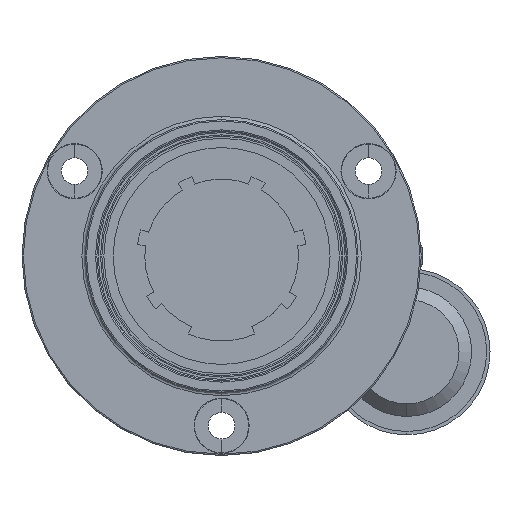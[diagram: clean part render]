
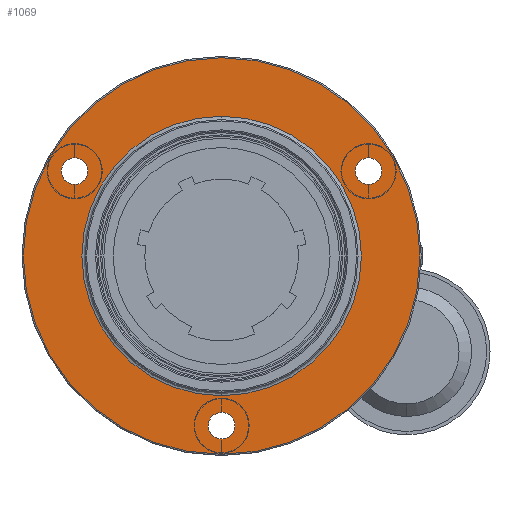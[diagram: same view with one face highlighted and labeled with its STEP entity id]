
A CAD part, front view. The second image highlights one B-rep face of the part: STEP entity #1069.
In plain terms, the highlighted planar face has unit normal (0, -1, 0).
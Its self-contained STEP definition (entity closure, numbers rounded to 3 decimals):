
#50 = CARTESIAN_POINT ( 'NONE',  ( 0., 0., 0. ) ) ;
#107 = DIRECTION ( 'NONE',  ( 0., 1., 0. ) ) ;
#149 = EDGE_CURVE ( 'NONE', #2538, #3407, #5561, .T. ) ;
#292 = FACE_BOUND ( 'NONE', #5422, .T. ) ;
#376 = DIRECTION ( 'NONE',  ( 0., 0., 1. ) ) ;
#440 = DIRECTION ( 'NONE',  ( 0., 0., 1. ) ) ;
#527 = DIRECTION ( 'NONE',  ( 0., 0., 1. ) ) ;
#692 = DIRECTION ( 'NONE',  ( 0., 1., 0. ) ) ;
#939 = CIRCLE ( 'NONE', #4312, 2. ) ;
#1017 = CARTESIAN_POINT ( 'NONE',  ( 0., 0., -25.5 ) ) ;
#1069 = ADVANCED_FACE ( 'NONE', ( #5551, #1592, #2889, #1890, #292 ), #2959, .F. ) ;
#1113 = CARTESIAN_POINT ( 'NONE',  ( 0., 0., 21. ) ) ;
#1148 = EDGE_LOOP ( 'NONE', ( #4592, #4015 ) ) ;
#1329 = CARTESIAN_POINT ( 'NONE',  ( -22.084, 0., 12.75 ) ) ;
#1347 = AXIS2_PLACEMENT_3D ( 'NONE', #6361, #3393, #440 ) ;
#1348 = CARTESIAN_POINT ( 'NONE',  ( 0., 0., 0. ) ) ;
#1392 = CARTESIAN_POINT ( 'NONE',  ( 22.084, 0., 14.75 ) ) ;
#1449 = AXIS2_PLACEMENT_3D ( 'NONE', #2406, #5902, #2908 ) ;
#1495 = EDGE_CURVE ( 'NONE', #3407, #2538, #1886, .T. ) ;
#1507 = DIRECTION ( 'NONE',  ( 0., 0., 1. ) ) ;
#1592 = FACE_BOUND ( 'NONE', #6288, .T. ) ;
#1628 = CIRCLE ( 'NONE', #5722, 29.8 ) ;
#1662 = CARTESIAN_POINT ( 'NONE',  ( -22.084, 0., 14.75 ) ) ;
#1731 = CARTESIAN_POINT ( 'NONE',  ( 0., 0., -21. ) ) ;
#1774 = CIRCLE ( 'NONE', #1449, 29.8 ) ;
#1820 = DIRECTION ( 'NONE',  ( 0., 0., 1. ) ) ;
#1844 = DIRECTION ( 'NONE',  ( 0., 0., 1. ) ) ;
#1853 = VERTEX_POINT ( 'NONE', #1113 ) ;
#1886 = CIRCLE ( 'NONE', #2825, 2. ) ;
#1890 = FACE_BOUND ( 'NONE', #1148, .T. ) ;
#1931 = EDGE_CURVE ( 'NONE', #5461, #3179, #2331, .T. ) ;
#2015 = CIRCLE ( 'NONE', #1347, 21. ) ;
#2058 = AXIS2_PLACEMENT_3D ( 'NONE', #1348, #4834, #1844 ) ;
#2065 = CARTESIAN_POINT ( 'NONE',  ( -22.084, 0., 10.75 ) ) ;
#2086 = CARTESIAN_POINT ( 'NONE',  ( 0., 0., 29.8 ) ) ;
#2188 = CARTESIAN_POINT ( 'NONE',  ( 22.084, 0., 12.75 ) ) ;
#2325 = DIRECTION ( 'NONE',  ( 0., 1., 0. ) ) ;
#2331 = CIRCLE ( 'NONE', #6035, 2. ) ;
#2406 = CARTESIAN_POINT ( 'NONE',  ( 0., 0., 0. ) ) ;
#2478 = DIRECTION ( 'NONE',  ( 0., 1., 0. ) ) ;
#2500 = EDGE_CURVE ( 'NONE', #6257, #1853, #2015, .T. ) ;
#2529 = CIRCLE ( 'NONE', #3902, 2. ) ;
#2538 = VERTEX_POINT ( 'NONE', #4434 ) ;
#2542 = VERTEX_POINT ( 'NONE', #2879 ) ;
#2560 = AXIS2_PLACEMENT_3D ( 'NONE', #2188, #107, #6036 ) ;
#2698 = CIRCLE ( 'NONE', #3865, 2. ) ;
#2825 = AXIS2_PLACEMENT_3D ( 'NONE', #6293, #3332, #376 ) ;
#2879 = CARTESIAN_POINT ( 'NONE',  ( 0., 0., -29.8 ) ) ;
#2889 = FACE_BOUND ( 'NONE', #5405, .T. ) ;
#2908 = DIRECTION ( 'NONE',  ( 0., 0., 1. ) ) ;
#2959 = PLANE ( 'NONE',  #3749 ) ;
#3179 = VERTEX_POINT ( 'NONE', #1662 ) ;
#3220 = ORIENTED_EDGE ( 'NONE', *, *, #149, .T. ) ;
#3240 = CIRCLE ( 'NONE', #2058, 21. ) ;
#3332 = DIRECTION ( 'NONE',  ( 0., 1., 0. ) ) ;
#3365 = EDGE_CURVE ( 'NONE', #5428, #4492, #939, .T. ) ;
#3393 = DIRECTION ( 'NONE',  ( 0., 1., 0. ) ) ;
#3407 = VERTEX_POINT ( 'NONE', #1392 ) ;
#3491 = DIRECTION ( 'NONE',  ( 0., -1., 0. ) ) ;
#3646 = CARTESIAN_POINT ( 'NONE',  ( -22.084, 0., 12.75 ) ) ;
#3749 = AXIS2_PLACEMENT_3D ( 'NONE', #4974, #2478, #5971 ) ;
#3865 = AXIS2_PLACEMENT_3D ( 'NONE', #1017, #4491, #1507 ) ;
#3902 = AXIS2_PLACEMENT_3D ( 'NONE', #1329, #4809, #1820 ) ;
#3934 = ORIENTED_EDGE ( 'NONE', *, *, #3986, .T. ) ;
#3961 = ORIENTED_EDGE ( 'NONE', *, *, #2500, .T. ) ;
#3986 = EDGE_CURVE ( 'NONE', #2542, #4637, #1628, .T. ) ;
#4015 = ORIENTED_EDGE ( 'NONE', *, *, #3365, .T. ) ;
#4155 = DIRECTION ( 'NONE',  ( 0., 0., 1. ) ) ;
#4215 = ORIENTED_EDGE ( 'NONE', *, *, #4390, .T. ) ;
#4312 = AXIS2_PLACEMENT_3D ( 'NONE', #5311, #2325, #5813 ) ;
#4390 = EDGE_CURVE ( 'NONE', #3179, #5461, #2529, .T. ) ;
#4434 = CARTESIAN_POINT ( 'NONE',  ( 22.084, 0., 10.75 ) ) ;
#4491 = DIRECTION ( 'NONE',  ( 0., 1., 0. ) ) ;
#4492 = VERTEX_POINT ( 'NONE', #5840 ) ;
#4507 = EDGE_CURVE ( 'NONE', #4637, #2542, #1774, .T. ) ;
#4541 = ORIENTED_EDGE ( 'NONE', *, *, #1931, .T. ) ;
#4592 = ORIENTED_EDGE ( 'NONE', *, *, #5075, .T. ) ;
#4637 = VERTEX_POINT ( 'NONE', #2086 ) ;
#4809 = DIRECTION ( 'NONE',  ( 0., 1., 0. ) ) ;
#4834 = DIRECTION ( 'NONE',  ( 0., 1., 0. ) ) ;
#4974 = CARTESIAN_POINT ( 'NONE',  ( 0., 0., 0. ) ) ;
#5075 = EDGE_CURVE ( 'NONE', #4492, #5428, #2698, .T. ) ;
#5285 = ORIENTED_EDGE ( 'NONE', *, *, #5743, .T. ) ;
#5311 = CARTESIAN_POINT ( 'NONE',  ( 0., 0., -25.5 ) ) ;
#5405 = EDGE_LOOP ( 'NONE', ( #3220, #6189 ) ) ;
#5422 = EDGE_LOOP ( 'NONE', ( #4541, #4215 ) ) ;
#5428 = VERTEX_POINT ( 'NONE', #5535 ) ;
#5461 = VERTEX_POINT ( 'NONE', #2065 ) ;
#5535 = CARTESIAN_POINT ( 'NONE',  ( 0., 0., -23.5 ) ) ;
#5551 = FACE_OUTER_BOUND ( 'NONE', #5552, .T. ) ;
#5552 = EDGE_LOOP ( 'NONE', ( #5660, #3934 ) ) ;
#5561 = CIRCLE ( 'NONE', #2560, 2. ) ;
#5660 = ORIENTED_EDGE ( 'NONE', *, *, #4507, .T. ) ;
#5722 = AXIS2_PLACEMENT_3D ( 'NONE', #50, #3491, #527 ) ;
#5743 = EDGE_CURVE ( 'NONE', #1853, #6257, #3240, .T. ) ;
#5813 = DIRECTION ( 'NONE',  ( 0., 0., 1. ) ) ;
#5840 = CARTESIAN_POINT ( 'NONE',  ( 0., 0., -27.5 ) ) ;
#5902 = DIRECTION ( 'NONE',  ( 0., -1., 0. ) ) ;
#5971 = DIRECTION ( 'NONE',  ( 0., 0., 1. ) ) ;
#6035 = AXIS2_PLACEMENT_3D ( 'NONE', #3646, #692, #4155 ) ;
#6036 = DIRECTION ( 'NONE',  ( 0., 0., 1. ) ) ;
#6189 = ORIENTED_EDGE ( 'NONE', *, *, #1495, .T. ) ;
#6257 = VERTEX_POINT ( 'NONE', #1731 ) ;
#6288 = EDGE_LOOP ( 'NONE', ( #5285, #3961 ) ) ;
#6293 = CARTESIAN_POINT ( 'NONE',  ( 22.084, 0., 12.75 ) ) ;
#6361 = CARTESIAN_POINT ( 'NONE',  ( 0., 0., 0. ) ) ;
